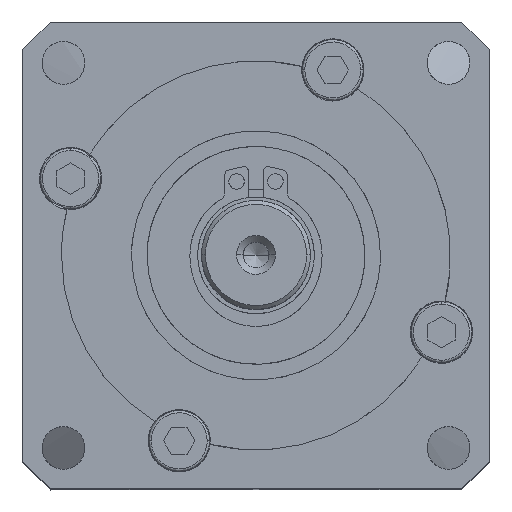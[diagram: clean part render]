
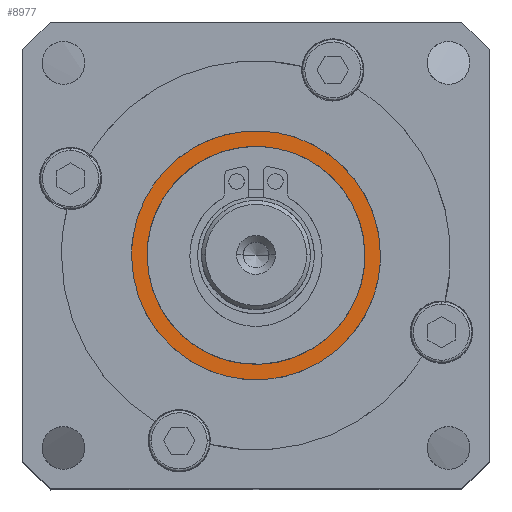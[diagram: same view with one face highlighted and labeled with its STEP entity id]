
A CAD part, top view. The second image highlights one B-rep face of the part: STEP entity #8977.
In plain terms, the highlighted free-form (B-spline) face has degree [1, 1] with [2, 2] control points.
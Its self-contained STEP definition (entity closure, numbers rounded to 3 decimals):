
#386 = ORIENTED_EDGE ( 'NONE', *, *, #11712, .F. ) ;
#503 = VERTEX_POINT ( 'NONE', #14518 ) ;
#812 = CARTESIAN_POINT ( 'NONE',  ( -9.832, -12.796, 9.3 ) ) ;
#832 = CARTESIAN_POINT ( 'NONE',  ( 0., 14., 9.3 ) ) ;
#1036 = CARTESIAN_POINT ( 'NONE',  ( -8.059, 13.98, 9.3 ) ) ;
#1319 = CARTESIAN_POINT ( 'NONE',  ( -14., -28., 9.3 ) ) ;
#1700 = CARTESIAN_POINT ( 'NONE',  ( 16.192, -16.192, 9.3 ) ) ;
#1979 = CARTESIAN_POINT ( 'NONE',  ( -15.584, -4.186, 9.3 ) ) ;
#2001 = CARTESIAN_POINT ( 'NONE',  ( 14., 0., 9.3 ) ) ;
#2061 = CARTESIAN_POINT ( 'NONE',  ( 15.584, -4.186, 9.3 ) ) ;
#2195 = CARTESIAN_POINT ( 'NONE',  ( 2.096, 16., 9.3 ) ) ;
#2616 = B_SPLINE_CURVE_WITH_KNOTS ( 'NONE', 3,
 ( #6910, #15284, #4572, #9320, #14100, #3385, #8152, #12916, #2195, #6985, #11748, #1036, #5826, #10573, #15359, #4650, #9396, #14175 ),
 .UNSPECIFIED., .F., .F.,
 ( 4, 2, 2, 2, 2, 2, 2, 2, 4 ),
 ( 0., 0.393, 0.785, 1.178, 1.571, 1.963, 2.356, 2.749, 3.142 ),
 .UNSPECIFIED. ) ;
#2862 = CARTESIAN_POINT ( 'NONE',  ( 14., 0., 9.3 ) ) ;
#3246 = CARTESIAN_POINT ( 'NONE',  ( 9.832, -12.796, 9.3 ) ) ;
#3385 = CARTESIAN_POINT ( 'NONE',  ( 9.832, 12.796, 9.3 ) ) ;
#3461 = VERTEX_POINT ( 'NONE', #12478 ) ;
#4424 = CARTESIAN_POINT ( 'NONE',  ( 2.096, -16., 9.3 ) ) ;
#4563 = EDGE_CURVE ( 'NONE', #11203, #503, #8183, .T. ) ;
#4572 = CARTESIAN_POINT ( 'NONE',  ( 15.584, 4.186, 9.3 ) ) ;
#4650 = CARTESIAN_POINT ( 'NONE',  ( -15.584, 4.186, 9.3 ) ) ;
#5607 = CARTESIAN_POINT ( 'NONE',  ( -8.059, -13.98, 9.3 ) ) ;
#5631 = CARTESIAN_POINT ( 'NONE',  ( -8.201, 14., 9.3 ) ) ;
#5826 = CARTESIAN_POINT ( 'NONE',  ( -9.832, 12.796, 9.3 ) ) ;
#6103 = CARTESIAN_POINT ( 'NONE',  ( 14., -28., 9.3 ) ) ;
#6488 = CARTESIAN_POINT ( 'NONE',  ( 16.192, 16.192, 9.3 ) ) ;
#6771 = CARTESIAN_POINT ( 'NONE',  ( -13.98, -8.059, 9.3 ) ) ;
#6793 = CARTESIAN_POINT ( 'NONE',  ( 14., 8.201, 9.3 ) ) ;
#6852 = CARTESIAN_POINT ( 'NONE',  ( 16., -2.096, 9.3 ) ) ;
#6910 = CARTESIAN_POINT ( 'NONE',  ( 16., 0., 9.3 ) ) ;
#6985 = CARTESIAN_POINT ( 'NONE',  ( -2.096, 16., 9.3 ) ) ;
#7004 = ORIENTED_EDGE ( 'NONE', *, *, #12095, .T. ) ;
#7538 = ORIENTED_EDGE ( 'NONE', *, *, #7879, .T. ) ;
#7654 = CARTESIAN_POINT ( 'NONE',  ( -16.192, -16.192, 9.3 ) ) ;
#7879 = EDGE_CURVE ( 'NONE', #3461, #9767, #2616, .T. ) ;
#7939 = CARTESIAN_POINT ( 'NONE',  ( -16., 0., 9.3 ) ) ;
#8018 = CARTESIAN_POINT ( 'NONE',  ( 12.796, -9.832, 9.3 ) ) ;
#8152 = CARTESIAN_POINT ( 'NONE',  ( 8.059, 13.98, 9.3 ) ) ;
#8183 =( BOUNDED_CURVE ( )  B_SPLINE_CURVE ( 3, ( #2001, #6793, #11551, #832, #5631, #10369, #15165 ),
 .UNSPECIFIED., .F., .T. ) 
 B_SPLINE_CURVE_WITH_KNOTS ( ( 4, 3, 4 ),
 ( -3.142, -1.571, 0. ),
 .UNSPECIFIED. ) 
 CURVE ( )  GEOMETRIC_REPRESENTATION_ITEM ( )  RATIONAL_B_SPLINE_CURVE ( ( 1., 0.805, 0.805, 1., 0.805, 0.805, 1. ) ) 
 REPRESENTATION_ITEM ( '' )  );
#8826 = FACE_BOUND ( 'NONE', #11810, .T. ) ;
#8977 = ADVANCED_FACE ( 'NONE', ( #8826, #13612 ), #10743, .T. ) ;
#9181 = CARTESIAN_POINT ( 'NONE',  ( 4.186, -15.584, 9.3 ) ) ;
#9320 = CARTESIAN_POINT ( 'NONE',  ( 13.98, 8.059, 9.3 ) ) ;
#9396 = CARTESIAN_POINT ( 'NONE',  ( -16., 2.096, 9.3 ) ) ;
#9767 = VERTEX_POINT ( 'NONE', #10108 ) ;
#10108 = CARTESIAN_POINT ( 'NONE',  ( -16., 0., 9.3 ) ) ;
#10290 = B_SPLINE_CURVE_WITH_KNOTS ( 'NONE', 3,
 ( #7939, #12698, #1979, #6771, #11529, #812, #5607, #10349, #15141, #4424, #9181, #13959, #3246, #8018, #12778, #2061, #6852, #11603 ),
 .UNSPECIFIED., .F., .F.,
 ( 4, 2, 2, 2, 2, 2, 2, 2, 4 ),
 ( 3.142, 3.534, 3.927, 4.32, 4.712, 5.105, 5.498, 5.89, 6.283 ),
 .UNSPECIFIED. ) ;
#10349 = CARTESIAN_POINT ( 'NONE',  ( -4.186, -15.584, 9.3 ) ) ;
#10369 = CARTESIAN_POINT ( 'NONE',  ( -14., 8.201, 9.3 ) ) ;
#10572 = EDGE_LOOP ( 'NONE', ( #7538, #7004 ) ) ;
#10573 = CARTESIAN_POINT ( 'NONE',  ( -12.796, 9.832, 9.3 ) ) ;
#10743 = B_SPLINE_SURFACE_WITH_KNOTS ( 'NONE', 1, 1, ( 
 ( #7654, #12420 ),
 ( #1700, #6488 ) ),
 .UNSPECIFIED., .F., .F., .F.,
 ( 2, 2 ),
 ( 2, 2 ),
 ( 0., 1. ),
 ( 0., 1. ),
 .UNSPECIFIED. ) ;
#10858 = CARTESIAN_POINT ( 'NONE',  ( 14., 0., 9.3 ) ) ;
#11203 = VERTEX_POINT ( 'NONE', #2862 ) ;
#11529 = CARTESIAN_POINT ( 'NONE',  ( -12.796, -9.832, 9.3 ) ) ;
#11551 = CARTESIAN_POINT ( 'NONE',  ( 8.201, 14., 9.3 ) ) ;
#11586 = ORIENTED_EDGE ( 'NONE', *, *, #4563, .F. ) ;
#11603 = CARTESIAN_POINT ( 'NONE',  ( 16., 0., 9.3 ) ) ;
#11712 = EDGE_CURVE ( 'NONE', #503, #11203, #14229, .T. ) ;
#11748 = CARTESIAN_POINT ( 'NONE',  ( -4.186, 15.584, 9.3 ) ) ;
#11810 = EDGE_LOOP ( 'NONE', ( #11586, #386 ) ) ;
#12025 = CARTESIAN_POINT ( 'NONE',  ( -14., 0., 9.3 ) ) ;
#12095 = EDGE_CURVE ( 'NONE', #9767, #3461, #10290, .T. ) ;
#12420 = CARTESIAN_POINT ( 'NONE',  ( -16.192, 16.192, 9.3 ) ) ;
#12478 = CARTESIAN_POINT ( 'NONE',  ( 16., 0., 9.3 ) ) ;
#12698 = CARTESIAN_POINT ( 'NONE',  ( -16., -2.096, 9.3 ) ) ;
#12778 = CARTESIAN_POINT ( 'NONE',  ( 13.98, -8.059, 9.3 ) ) ;
#12916 = CARTESIAN_POINT ( 'NONE',  ( 4.186, 15.584, 9.3 ) ) ;
#13612 = FACE_OUTER_BOUND ( 'NONE', #10572, .T. ) ;
#13959 = CARTESIAN_POINT ( 'NONE',  ( 8.059, -13.98, 9.3 ) ) ;
#14100 = CARTESIAN_POINT ( 'NONE',  ( 12.796, 9.832, 9.3 ) ) ;
#14175 = CARTESIAN_POINT ( 'NONE',  ( -16., 0., 9.3 ) ) ;
#14229 =( BOUNDED_CURVE ( )  B_SPLINE_CURVE ( 3, ( #12025, #1319, #6103, #10858 ),
 .UNSPECIFIED., .F., .T. ) 
 B_SPLINE_CURVE_WITH_KNOTS ( ( 4, 4 ),
 ( -3.142, 0. ),
 .UNSPECIFIED. ) 
 CURVE ( )  GEOMETRIC_REPRESENTATION_ITEM ( )  RATIONAL_B_SPLINE_CURVE ( ( 1., 0.333, 0.333, 1. ) ) 
 REPRESENTATION_ITEM ( '' )  );
#14518 = CARTESIAN_POINT ( 'NONE',  ( -14., 0., 9.3 ) ) ;
#15141 = CARTESIAN_POINT ( 'NONE',  ( -2.096, -16., 9.3 ) ) ;
#15165 = CARTESIAN_POINT ( 'NONE',  ( -14., 0., 9.3 ) ) ;
#15284 = CARTESIAN_POINT ( 'NONE',  ( 16., 2.096, 9.3 ) ) ;
#15359 = CARTESIAN_POINT ( 'NONE',  ( -13.98, 8.059, 9.3 ) ) ;
